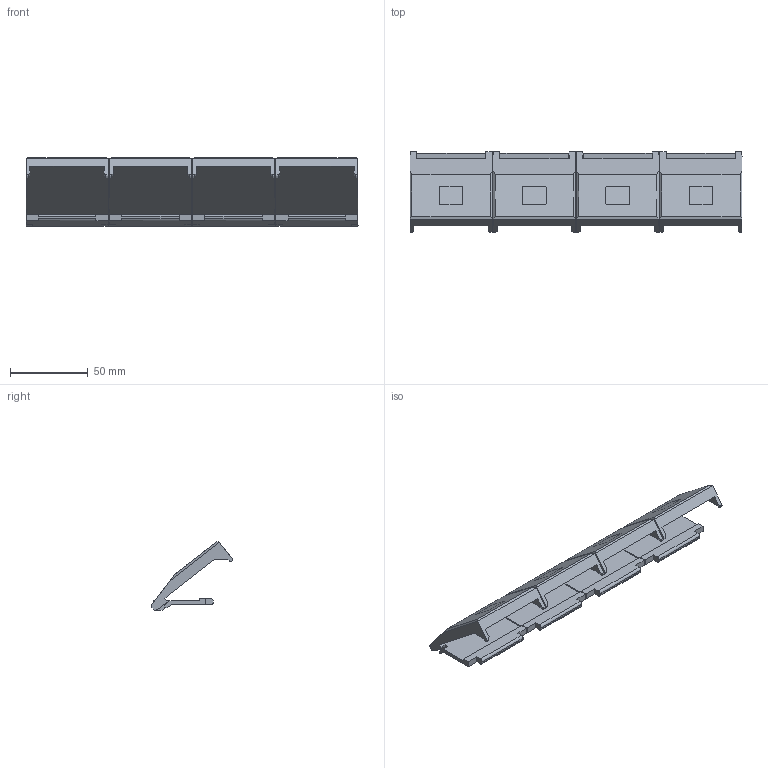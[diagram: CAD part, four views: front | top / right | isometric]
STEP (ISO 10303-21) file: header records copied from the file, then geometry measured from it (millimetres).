
FILE_DESCRIPTION(/* description */ (''),/* implementation_level */ '2;1');
FILE_NAME(/* name */ 'LA-2098-0966#-A.stp',/* time_stamp */ '2012-09-07T10:18:17+01:00',/* author */ (''),/* organization */ (''),/* preprocessor_version */ 'ST-DEVELOPER v11',/* originating_system */ 'SIEMENS PLM Software NX 7.5',/* authorisation */ '');
FILE_SCHEMA (('AUTOMOTIVE_DESIGN { 1 0 10303 214 1 1 1 1 }'));
Length unit declared in the file: millimetre
Products named in the file (1): rt13371Ayv2h
Bounding box: 213.25 x 52.07 x 43.96 mm (x, y, z)
Volume: 107531.4 mm3; surface area: 47502.2 mm2
Topology: 8 solids, 8 shells, 248 faces, 788 edges, 560 vertices
Faces by surface type: plane 196, cylinder 36, bspline 16
Entity records: 10573 total; most frequent: CARTESIAN_POINT 1813, ORIENTED_EDGE 1576, DIRECTION 1270, EDGE_CURVE 788, LINE 628, VECTOR 628, VERTEX_POINT 560, AXIS2_PLACEMENT_3D 321
